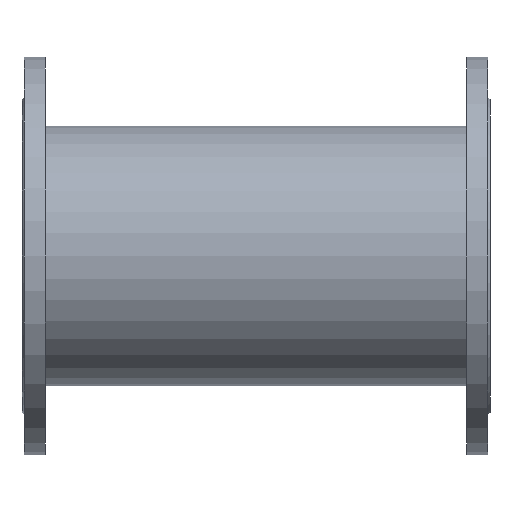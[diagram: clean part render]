
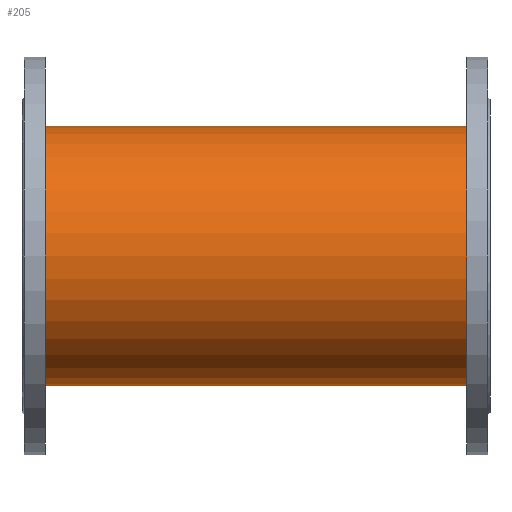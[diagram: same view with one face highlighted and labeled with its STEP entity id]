
A CAD part, front view. The second image highlights one B-rep face of the part: STEP entity #205.
In plain terms, the highlighted cylindrical face has radius 111 mm (diameter 222 mm), a partial arc.
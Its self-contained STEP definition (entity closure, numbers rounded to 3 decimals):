
#205=ADVANCED_FACE('',(#469),#470,.T.);
#469=FACE_OUTER_BOUND('',#795,.T.);
#470=CYLINDRICAL_SURFACE('',#796,111.0);
#795=EDGE_LOOP('',(#1269,#1270,#1271,#1272));
#796=AXIS2_PLACEMENT_3D('',#1273,#1274,#1275);
#1269=ORIENTED_EDGE('',*,*,#1872,.T.);
#1270=ORIENTED_EDGE('',*,*,#1750,.T.);
#1271=ORIENTED_EDGE('',*,*,#1873,.T.);
#1272=ORIENTED_EDGE('',*,*,#1874,.T.);
#1273=CARTESIAN_POINT('',(10.0,0.0,0.));
#1274=DIRECTION('',(1.0,0.0,0.));
#1275=DIRECTION('',(0.,0.0,-1.0));
#1750=EDGE_CURVE('',#2095,#2096,#2097,.T.);
#1872=EDGE_CURVE('',#2283,#2095,#2284,.T.);
#1873=EDGE_CURVE('',#2096,#2285,#2286,.T.);
#1874=EDGE_CURVE('',#2285,#2283,#2287,.T.);
#2095=VERTEX_POINT('',#2518);
#2096=VERTEX_POINT('',#2519);
#2097=CIRCLE('',#2520,111.0);
#2283=VERTEX_POINT('',#2748);
#2284=LINE('',#2749,#2750);
#2285=VERTEX_POINT('',#2751);
#2286=LINE('',#2752,#2753);
#2287=CIRCLE('',#2754,111.0);
#2518=CARTESIAN_POINT('',(390.0,0.0,-111.0));
#2519=CARTESIAN_POINT('',(390.0,0.,111.0));
#2520=AXIS2_PLACEMENT_3D('',#3062,#3063,#3064);
#2748=CARTESIAN_POINT('',(10.0,0.0,-111.0));
#2749=CARTESIAN_POINT('',(10.0,0.,-111.0));
#2750=VECTOR('',#3263,1.0);
#2751=CARTESIAN_POINT('',(10.,0.,111.0));
#2752=CARTESIAN_POINT('',(10.,0.,111.0));
#2753=VECTOR('',#3264,1.0);
#2754=AXIS2_PLACEMENT_3D('',#3265,#3266,#3267);
#3062=CARTESIAN_POINT('',(390.0,0.0,0.));
#3063=DIRECTION('',(-1.0,-0.0,0.));
#3064=DIRECTION('',(0.,0.0,-1.0));
#3263=DIRECTION('',(1.0,0.0,0.));
#3264=DIRECTION('',(-1.0,-0.0,0.));
#3265=CARTESIAN_POINT('',(10.0,0.0,0.));
#3266=DIRECTION('',(1.0,0.0,0.));
#3267=DIRECTION('',(0.,0.0,-1.0));
